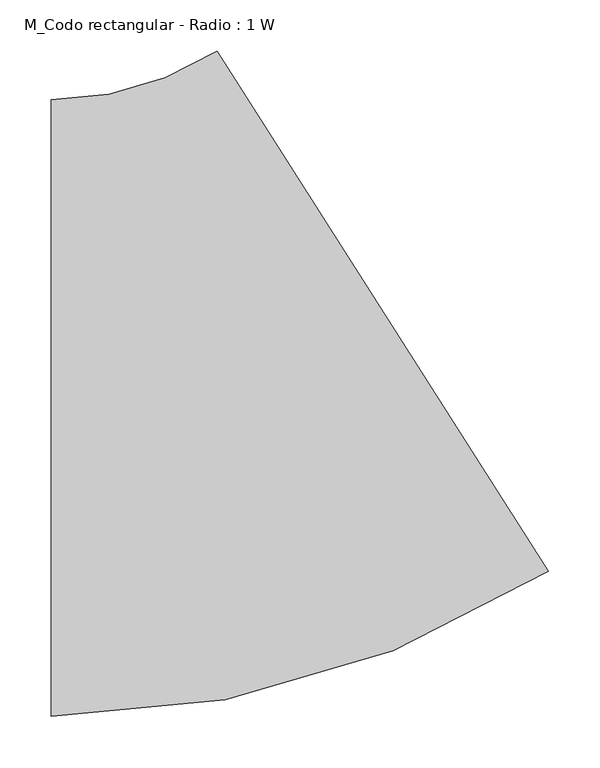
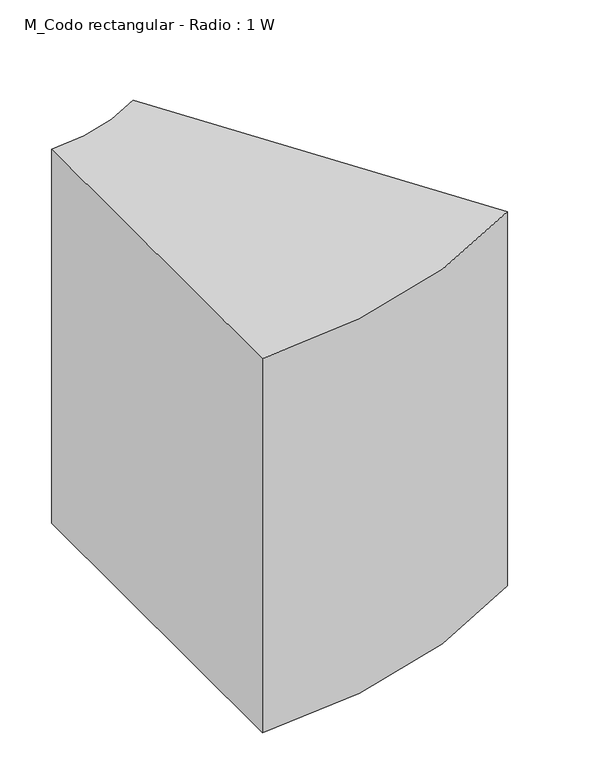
"""IFC4 building model written with IfcOpenShell, lengths in millimetres: duct fitting geometry, M_Codo rectangular - Radio : 1 W."""

from ifc_helpers import new_model, si_unit, point, frame, frame_2d, origin, place, context, project, spatial, polyline, circle_curve, trimmed, segment, composite_curve, outline, extrude, source, transform, mapped, element, save


def m_codo_rectangular_radio_1_w_8ec1ecac(model_context):
    return source(origin(), model_context, "Body", "SweptSolid", [
        extrude(outline(composite_curve([segment(trimmed(circle_curve(frame_2d((-175.0841541, 600.0)), 900.0), [point((308.952009, -158.7548964))], [point((-175.0841541, -300.0))], False, "CARTESIAN"), True, "CONTINUOUS"), segment(polyline([(-175.0841541, -300.0), (-175.0841541, 300.0)]), True, "CONTINUOUS"), segment(trimmed(circle_curve(frame_2d((-175.0841541, 600.0)), 300.0), [point((-175.0841541, 300.0))], [point((-13.7387664, 347.0817012))], True, "CARTESIAN"), True, "CONTINUOUS"), segment(polyline([(-13.7387664, 347.0817012), (308.952009, -158.7548964)]), True, "CONTINUOUS")], self_intersect=False)), frame((0.0, 0.0, -325.0), z_axis=(0.0, 0.0, 1.0), x_axis=(1.0, 0.0, 0.0)), (0.0, 0.0, 1.0), 650.0),
    ])


if __name__ == "__main__":
    model = new_model("IFC4")
    model_context = context("Model", 3, world=origin())
    ifc_project = project(units=[si_unit("LENGTHUNIT", "METRE", prefix="MILLI")], contexts=[model_context])
    site = spatial("IfcSite", under=ifc_project)
    building = spatial("IfcBuilding", under=site)
    placement = place(None, origin())
    m_codo_rectangular_radio_1_w_shape = m_codo_rectangular_radio_1_w_8ec1ecac(model_context)
    element("IfcDuctFitting", 1, ObjectType="M_Codo rectangular - Radio : 1 W", at=placement, inside=building, context=model_context, shape_type="MappedRepresentation", body=[
        mapped(m_codo_rectangular_radio_1_w_shape, transform((0.0, 0.0, 0.0), x_axis=(1.0, 0.0, 0.0), y_axis=(0.0, 1.0, 0.0), z_axis=(0.0, 0.0, 1.0))),
    ])
    save(model, "model.ifc")
